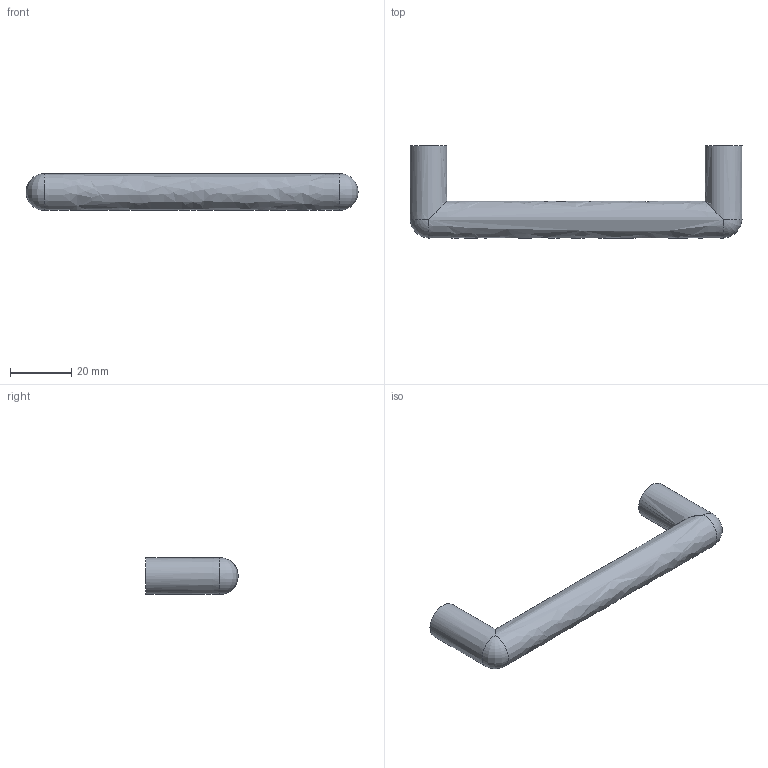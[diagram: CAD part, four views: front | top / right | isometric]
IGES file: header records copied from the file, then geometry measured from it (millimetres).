
Start section: Data from Parasolid IGES Translator 15.0.47, Copyright(c) 2006 Siemens P LM Software. All Rights Reserved.
Global section: file name:  9070970.igs; native system:  By UGS Corp.; preprocessor: XPlus GENERIC/IGES 3.0; author: Noname; organization: Noname; date: 20140122.181518; units: millimetre
Bounding box: 108 x 30 x 12 mm (x, y, z)
Surface area: 5907.2 mm2 (no closed solid volume)
Topology: 0 solids, 0 shells, 11 faces, 38 edges, 30 vertices
Faces by surface type: revolution 7, extrusion 4
